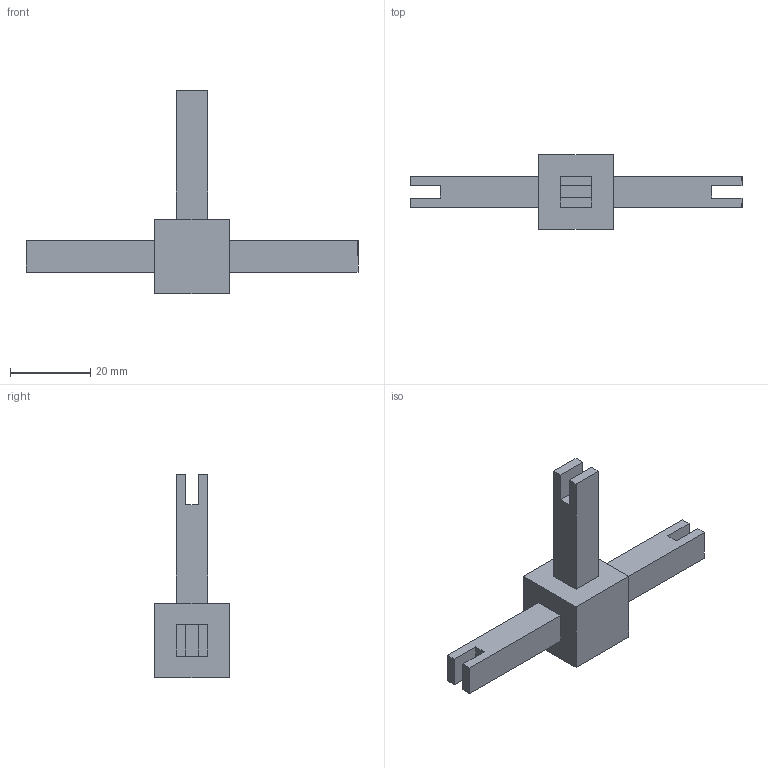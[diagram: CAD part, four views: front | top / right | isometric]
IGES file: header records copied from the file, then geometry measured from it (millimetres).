
Start section: Data from Parasolid IGES Translator 20.0.26, Copyright(c) 2006 Siemens P LM Software. All Rights Reserved.
Global section: file name: 9298825.igs; native system: By Siemens PLM Incorporated; preprocessor: XPlus GENERIC/IGES 20.0.26; author: Noname; organization: Noname; date: 20210826.183842; units: millimetre
Bounding box: 82.5 x 18.5 x 50.5 mm (x, y, z)
Surface area: 5264.7 mm2 (no closed solid volume)
Topology: 0 solids, 0 shells, 33 faces, 168 edges, 168 vertices
Faces by surface type: extrusion 33
